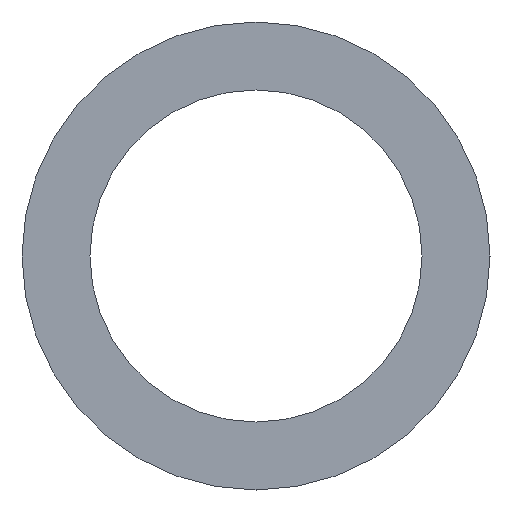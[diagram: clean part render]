
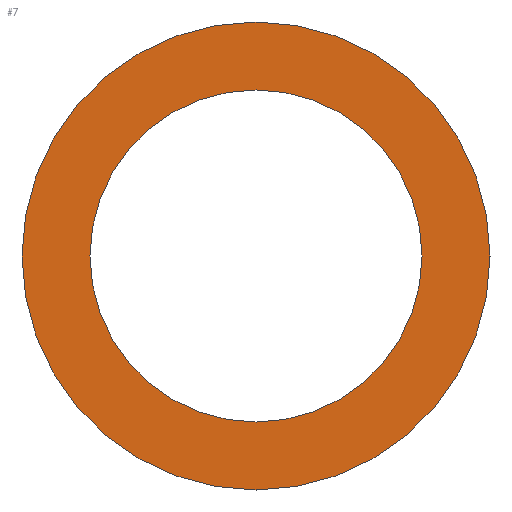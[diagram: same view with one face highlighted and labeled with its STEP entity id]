
A CAD part, front view. The second image highlights one B-rep face of the part: STEP entity #7.
In plain terms, the highlighted planar face has unit normal (0, -1, 0).
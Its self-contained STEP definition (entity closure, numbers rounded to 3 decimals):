
#7 = ADVANCED_FACE ( 'NONE', ( #3335, #2458 ), #79, .F. ) ;
#11 = VERTEX_POINT ( 'NONE', #3515 ) ;
#79 = PLANE ( 'NONE',  #1123 ) ;
#98 = CARTESIAN_POINT ( 'NONE',  ( 0., -22., 55. ) ) ;
#106 = AXIS2_PLACEMENT_3D ( 'NONE', #1635, #1886, #2204 ) ;
#112 = DIRECTION ( 'NONE',  ( 0., 0., -1. ) ) ;
#121 = CIRCLE ( 'NONE', #106, 55. ) ;
#202 = CARTESIAN_POINT ( 'NONE',  ( 0., -22., 77.5 ) ) ;
#225 = ORIENTED_EDGE ( 'NONE', *, *, #941, .T. ) ;
#250 = CARTESIAN_POINT ( 'NONE',  ( 0., -22., 0. ) ) ;
#254 = VERTEX_POINT ( 'NONE', #1646 ) ;
#404 = EDGE_CURVE ( 'NONE', #11, #3579, #1009, .T. ) ;
#672 = ORIENTED_EDGE ( 'NONE', *, *, #404, .F. ) ;
#941 = EDGE_CURVE ( 'NONE', #254, #3188, #2985, .T. ) ;
#945 = DIRECTION ( 'NONE',  ( 0., 0., 1. ) ) ;
#1009 = CIRCLE ( 'NONE', #2401, 55. ) ;
#1123 = AXIS2_PLACEMENT_3D ( 'NONE', #98, #2359, #945 ) ;
#1151 = DIRECTION ( 'NONE',  ( 0., 0., -1. ) ) ;
#1455 = CARTESIAN_POINT ( 'NONE',  ( 0., -22., 0. ) ) ;
#1635 = CARTESIAN_POINT ( 'NONE',  ( 0., -22., 0. ) ) ;
#1646 = CARTESIAN_POINT ( 'NONE',  ( 0., -22., -77.5 ) ) ;
#1794 = EDGE_CURVE ( 'NONE', #3188, #254, #1880, .T. ) ;
#1880 = CIRCLE ( 'NONE', #3303, 77.5 ) ;
#1886 = DIRECTION ( 'NONE',  ( 0., -1., 0. ) ) ;
#2053 = AXIS2_PLACEMENT_3D ( 'NONE', #1455, #2874, #1151 ) ;
#2204 = DIRECTION ( 'NONE',  ( 0., 0., -1. ) ) ;
#2255 = DIRECTION ( 'NONE',  ( 0., -1., 0. ) ) ;
#2291 = DIRECTION ( 'NONE',  ( 0., 0., -1. ) ) ;
#2335 = EDGE_LOOP ( 'NONE', ( #672, #3500 ) ) ;
#2359 = DIRECTION ( 'NONE',  ( 0., 1., 0. ) ) ;
#2401 = AXIS2_PLACEMENT_3D ( 'NONE', #250, #2255, #2291 ) ;
#2458 = FACE_OUTER_BOUND ( 'NONE', #3601, .T. ) ;
#2542 = ORIENTED_EDGE ( 'NONE', *, *, #1794, .T. ) ;
#2707 = DIRECTION ( 'NONE',  ( 0., -1., 0. ) ) ;
#2874 = DIRECTION ( 'NONE',  ( 0., -1., 0. ) ) ;
#2985 = CIRCLE ( 'NONE', #2053, 77.5 ) ;
#3188 = VERTEX_POINT ( 'NONE', #202 ) ;
#3212 = CARTESIAN_POINT ( 'NONE',  ( 0., -22., 55. ) ) ;
#3240 = CARTESIAN_POINT ( 'NONE',  ( 0., -22., 0. ) ) ;
#3303 = AXIS2_PLACEMENT_3D ( 'NONE', #3240, #2707, #112 ) ;
#3335 = FACE_BOUND ( 'NONE', #2335, .T. ) ;
#3500 = ORIENTED_EDGE ( 'NONE', *, *, #3702, .F. ) ;
#3515 = CARTESIAN_POINT ( 'NONE',  ( 0., -22., -55. ) ) ;
#3579 = VERTEX_POINT ( 'NONE', #3212 ) ;
#3601 = EDGE_LOOP ( 'NONE', ( #225, #2542 ) ) ;
#3702 = EDGE_CURVE ( 'NONE', #3579, #11, #121, .T. ) ;
